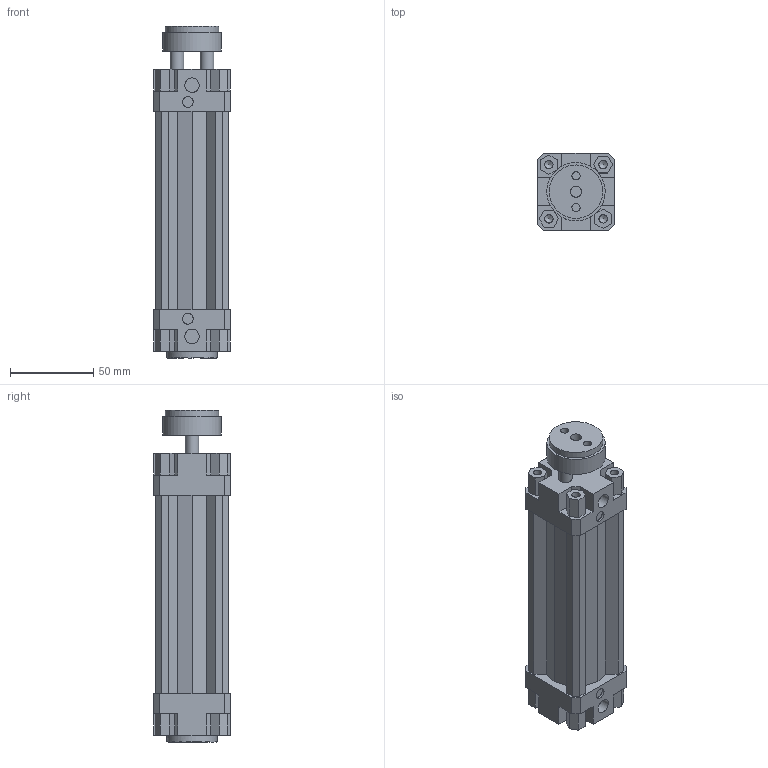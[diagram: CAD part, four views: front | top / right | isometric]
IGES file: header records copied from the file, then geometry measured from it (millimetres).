
Global section: file name: 132#_032_0075_01; native system: Autodesk Inventor 2014; preprocessor: unknown; author: A. Manieri; date: 20161006.154632; units: millimetre
Bounding box: 46 x 46 x 199 mm (x, y, z)
Volume: 226631.7 mm3; surface area: 73461.4 mm2
Topology: 2 solids, 2 shells, 187 faces, 507 edges, 343 vertices
Faces by surface type: bspline 187
